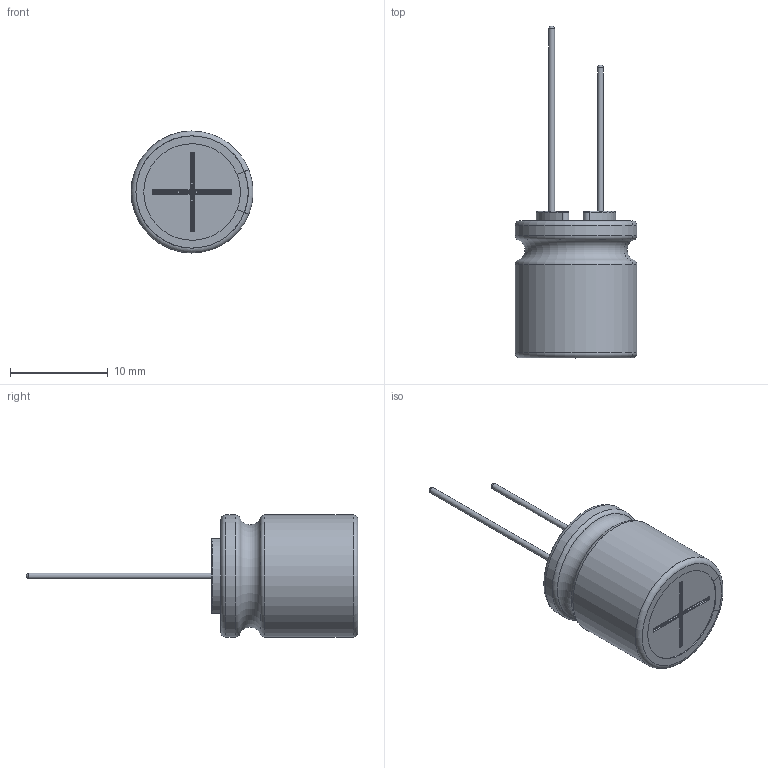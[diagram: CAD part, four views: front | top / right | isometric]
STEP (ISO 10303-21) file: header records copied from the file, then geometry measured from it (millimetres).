
FILE_DESCRIPTION(/* description */ (''),/* implementation_level */ '2;1');
FILE_NAME(/* name */ '12.5x15_Lead.stp',/* time_stamp */ '2017-09-05T14:20:17+09:00',/* author */ (''),/* organization */ (''),/* preprocessor_version */ 'ST-DEVELOPER v16',/* originating_system */ 'SIEMENS PLM Software NX 11.0',/* authorisation */ '');
FILE_SCHEMA (('AUTOMOTIVE_DESIGN { 1 0 10303 214 3 1 1 1 }'));
Length unit declared in the file: millimetre
Products named in the file (1): 12.5x15_Lead_0
Bounding box: 12.48 x 34 x 12.5 mm (x, y, z)
Volume: 1677.5 mm3; surface area: 2173.3 mm2
Topology: 3 solids, 3 shells, 132 faces, 326 edges, 203 vertices
Faces by surface type: cylinder 50, torus 35, plane 33, sphere 6, bspline 6, extrusion 2
Full cylindrical faces by diameter (mm): 0.6 x2, 12.3 x2
Entity records: 5211 total; most frequent: CARTESIAN_POINT 1361, DIRECTION 748, ORIENTED_EDGE 624, EDGE_CURVE 312, AXIS2_PLACEMENT_3D 311, VERTEX_POINT 200, CIRCLE 174, EDGE_LOOP 146
